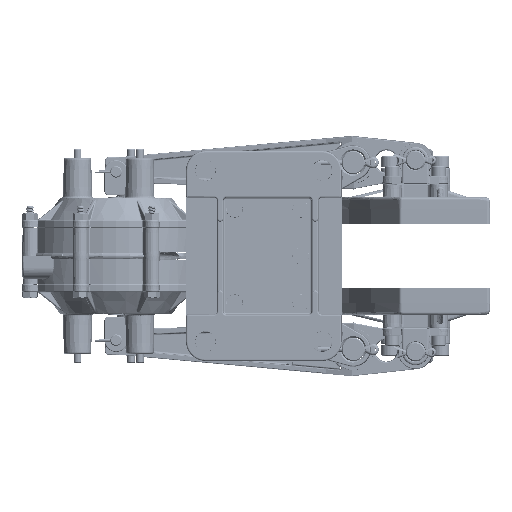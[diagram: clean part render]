
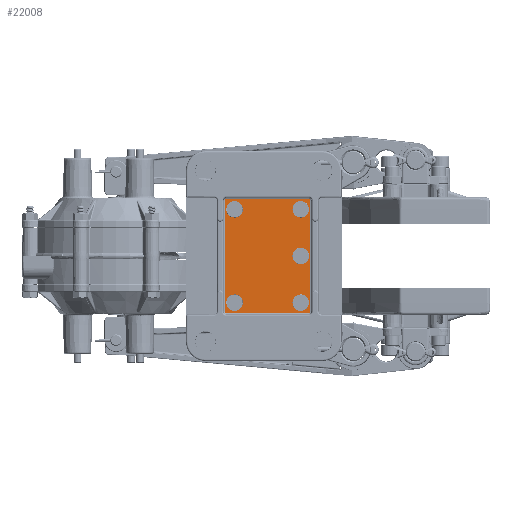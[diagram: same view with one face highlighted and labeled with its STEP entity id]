
A CAD part, front view. The second image highlights one B-rep face of the part: STEP entity #22008.
In plain terms, the highlighted planar face has unit normal (0, -1, 0).
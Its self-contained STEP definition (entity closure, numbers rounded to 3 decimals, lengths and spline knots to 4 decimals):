
#1706 = CIRCLE ( 'NONE', #218860, 0.0509 ) ;
#3610 = CARTESIAN_POINT ( 'NONE',  ( -1.2711, -7.754, 1.5 ) ) ;
#3825 = EDGE_CURVE ( 'NONE', #57411, #57411, #92169, .T. ) ;
#6438 = VECTOR ( 'NONE', #66553, 39.3701 ) ;
#8799 = CARTESIAN_POINT ( 'NONE',  ( -3.3925, -7.754, 1.775 ) ) ;
#11671 = VERTEX_POINT ( 'NONE', #193132 ) ;
#12445 = CARTESIAN_POINT ( 'NONE',  ( -3.3961, -7.754, -1.5 ) ) ;
#13329 = DIRECTION ( 'NONE',  ( 0., -1., 0. ) ) ;
#21909 = AXIS2_PLACEMENT_3D ( 'NONE', #149166, #13329, #171962 ) ;
#22008 = ADVANCED_FACE ( 'NONE', ( #58662, #239548, #119010, #179206, #292636, #232453 ), #183767, .F. ) ;
#25703 = EDGE_CURVE ( 'NONE', #54062, #45253, #146386, .T. ) ;
#26130 = DIRECTION ( 'NONE',  ( -1., 0., 0. ) ) ;
#31579 = DIRECTION ( 'NONE',  ( -1., 0., 0. ) ) ;
#38419 = VERTEX_POINT ( 'NONE', #3610 ) ;
#45244 = ORIENTED_EDGE ( 'NONE', *, *, #3825, .T. ) ;
#45253 = VERTEX_POINT ( 'NONE', #91319 ) ;
#49256 = AXIS2_PLACEMENT_3D ( 'NONE', #190291, #54552, #213058 ) ;
#49587 = CARTESIAN_POINT ( 'NONE',  ( -0.7016, -7.754, 1.775 ) ) ;
#53083 = VECTOR ( 'NONE', #143412, 39.3701 ) ;
#53428 = VERTEX_POINT ( 'NONE', #95678 ) ;
#54062 = VERTEX_POINT ( 'NONE', #80281 ) ;
#54552 = DIRECTION ( 'NONE',  ( 0., 1., 0. ) ) ;
#54809 = CIRCLE ( 'NONE', #278682, 0.2656 ) ;
#57411 = VERTEX_POINT ( 'NONE', #117097 ) ;
#58662 = FACE_BOUND ( 'NONE', #247994, .T. ) ;
#60136 = LINE ( 'NONE', #76022, #53083 ) ;
#65316 = DIRECTION ( 'NONE',  ( 0., 1., 0. ) ) ;
#65794 = ORIENTED_EDGE ( 'NONE', *, *, #284200, .T. ) ;
#66086 = ORIENTED_EDGE ( 'NONE', *, *, #161708, .T. ) ;
#66553 = DIRECTION ( 'NONE',  ( 0., 0., -1. ) ) ;
#70040 = AXIS2_PLACEMENT_3D ( 'NONE', #8799, #167336, #31579 ) ;
#71170 = EDGE_CURVE ( 'NONE', #79332, #79332, #54809, .T. ) ;
#72397 = DIRECTION ( 'NONE',  ( 0., 0., 1. ) ) ;
#76022 = CARTESIAN_POINT ( 'NONE',  ( -3.3925, -7.754, 1.8259 ) ) ;
#78541 = CIRCLE ( 'NONE', #70040, 0.0509 ) ;
#79332 = VERTEX_POINT ( 'NONE', #292135 ) ;
#80281 = CARTESIAN_POINT ( 'NONE',  ( -0.7016, -7.754, 1.775 ) ) ;
#90142 = EDGE_LOOP ( 'NONE', ( #65794, #291968, #213707, #249371, #241692, #66086, #293717, #220119 ) ) ;
#91319 = CARTESIAN_POINT ( 'NONE',  ( -0.7525, -7.754, 1.8259 ) ) ;
#91785 = EDGE_CURVE ( 'NONE', #287069, #54062, #244555, .T. ) ;
#92169 = CIRCLE ( 'NONE', #102050, 0.2656 ) ;
#95360 = VERTEX_POINT ( 'NONE', #136550 ) ;
#95678 = CARTESIAN_POINT ( 'NONE',  ( -3.4434, -7.754, -1.775 ) ) ;
#96128 = CARTESIAN_POINT ( 'NONE',  ( -3.1305, -7.754, 1.5 ) ) ;
#97141 = EDGE_LOOP ( 'NONE', ( #143979 ) ) ;
#97377 = CARTESIAN_POINT ( 'NONE',  ( -3.3925, -7.754, -1.775 ) ) ;
#100470 = VERTEX_POINT ( 'NONE', #12445 ) ;
#102050 = AXIS2_PLACEMENT_3D ( 'NONE', #201063, #65316, #223903 ) ;
#110016 = DIRECTION ( 'NONE',  ( 0., -1., 0. ) ) ;
#110708 = DIRECTION ( 'NONE',  ( 0., 1., 0. ) ) ;
#117097 = CARTESIAN_POINT ( 'NONE',  ( -1.2711, -7.754, 0. ) ) ;
#118502 = DIRECTION ( 'NONE',  ( 0., 1., 0. ) ) ;
#118939 = DIRECTION ( 'NONE',  ( -1., 0., 0. ) ) ;
#119010 = FACE_BOUND ( 'NONE', #249917, .T. ) ;
#120137 = DIRECTION ( 'NONE',  ( -1., 0., 0. ) ) ;
#124736 = EDGE_CURVE ( 'NONE', #53428, #146165, #1706, .T. ) ;
#131042 = EDGE_LOOP ( 'NONE', ( #287037 ) ) ;
#131848 = EDGE_CURVE ( 'NONE', #100470, #100470, #226026, .T. ) ;
#136550 = CARTESIAN_POINT ( 'NONE',  ( -3.3961, -7.754, 1.5 ) ) ;
#141047 = VECTOR ( 'NONE', #255494, 39.3701 ) ;
#143412 = DIRECTION ( 'NONE',  ( -1., 0., 0. ) ) ;
#143979 = ORIENTED_EDGE ( 'NONE', *, *, #131848, .T. ) ;
#145071 = EDGE_CURVE ( 'NONE', #146165, #202567, #261628, .T. ) ;
#146165 = VERTEX_POINT ( 'NONE', #239585 ) ;
#146386 = CIRCLE ( 'NONE', #21909, 0.0509 ) ;
#147797 = ORIENTED_EDGE ( 'NONE', *, *, #71170, .T. ) ;
#149166 = CARTESIAN_POINT ( 'NONE',  ( -0.7525, -7.754, 1.775 ) ) ;
#150695 = AXIS2_PLACEMENT_3D ( 'NONE', #245724, #110016, #268573 ) ;
#153695 = CIRCLE ( 'NONE', #282097, 0.2656 ) ;
#161708 = EDGE_CURVE ( 'NONE', #202567, #287069, #244820, .T. ) ;
#161935 = DIRECTION ( 'NONE',  ( 0., 1., 0. ) ) ;
#167336 = DIRECTION ( 'NONE',  ( 0., -1., 0. ) ) ;
#167365 = ORIENTED_EDGE ( 'NONE', *, *, #290937, .T. ) ;
#171962 = DIRECTION ( 'NONE',  ( -1., 0., 0. ) ) ;
#178001 = CARTESIAN_POINT ( 'NONE',  ( -0.7016, -7.754, -1.775 ) ) ;
#179206 = FACE_BOUND ( 'NONE', #131042, .T. ) ;
#183767 = PLANE ( 'NONE',  #184863 ) ;
#184285 = VECTOR ( 'NONE', #72397, 39.3701 ) ;
#184863 = AXIS2_PLACEMENT_3D ( 'NONE', #273990, #161935, #26130 ) ;
#190291 = CARTESIAN_POINT ( 'NONE',  ( -3.1305, -7.754, -1.5 ) ) ;
#193132 = CARTESIAN_POINT ( 'NONE',  ( -3.3925, -7.754, 1.8259 ) ) ;
#199275 = EDGE_CURVE ( 'NONE', #11671, #220225, #78541, .T. ) ;
#201063 = CARTESIAN_POINT ( 'NONE',  ( -1.0055, -7.754, 0. ) ) ;
#202281 = CARTESIAN_POINT ( 'NONE',  ( -3.4434, -7.754, -1.775 ) ) ;
#202567 = VERTEX_POINT ( 'NONE', #254043 ) ;
#203968 = CIRCLE ( 'NONE', #238225, 0.2656 ) ;
#213058 = DIRECTION ( 'NONE',  ( -1., 0., 0. ) ) ;
#213707 = ORIENTED_EDGE ( 'NONE', *, *, #269407, .T. ) ;
#218860 = AXIS2_PLACEMENT_3D ( 'NONE', #97377, #255882, #120137 ) ;
#220119 = ORIENTED_EDGE ( 'NONE', *, *, #25703, .T. ) ;
#220225 = VERTEX_POINT ( 'NONE', #227025 ) ;
#223903 = DIRECTION ( 'NONE',  ( -1., 0., 0. ) ) ;
#226026 = CIRCLE ( 'NONE', #49256, 0.2656 ) ;
#227025 = CARTESIAN_POINT ( 'NONE',  ( -3.4434, -7.754, 1.775 ) ) ;
#232453 = FACE_OUTER_BOUND ( 'NONE', #90142, .T. ) ;
#233691 = CARTESIAN_POINT ( 'NONE',  ( -0.7525, -7.754, -1.8259 ) ) ;
#238225 = AXIS2_PLACEMENT_3D ( 'NONE', #96128, #254675, #118939 ) ;
#239548 = FACE_BOUND ( 'NONE', #270440, .T. ) ;
#239585 = CARTESIAN_POINT ( 'NONE',  ( -3.3925, -7.754, -1.8259 ) ) ;
#241692 = ORIENTED_EDGE ( 'NONE', *, *, #145071, .T. ) ;
#244555 = LINE ( 'NONE', #49587, #184285 ) ;
#244820 = CIRCLE ( 'NONE', #150695, 0.0509 ) ;
#245724 = CARTESIAN_POINT ( 'NONE',  ( -0.7525, -7.754, -1.775 ) ) ;
#246424 = CARTESIAN_POINT ( 'NONE',  ( -1.0055, -7.754, 1.5 ) ) ;
#247994 = EDGE_LOOP ( 'NONE', ( #147797 ) ) ;
#249371 = ORIENTED_EDGE ( 'NONE', *, *, #124736, .T. ) ;
#249917 = EDGE_LOOP ( 'NONE', ( #167365 ) ) ;
#254043 = CARTESIAN_POINT ( 'NONE',  ( -0.7525, -7.754, -1.8259 ) ) ;
#254240 = CARTESIAN_POINT ( 'NONE',  ( -1.0055, -7.754, -1.5 ) ) ;
#254675 = DIRECTION ( 'NONE',  ( 0., 1., 0. ) ) ;
#255494 = DIRECTION ( 'NONE',  ( 1., 0., 0. ) ) ;
#255882 = DIRECTION ( 'NONE',  ( 0., -1., 0. ) ) ;
#261628 = LINE ( 'NONE', #233691, #141047 ) ;
#268573 = DIRECTION ( 'NONE',  ( -1., 0., 0. ) ) ;
#269252 = DIRECTION ( 'NONE',  ( -1., 0., 0. ) ) ;
#269407 = EDGE_CURVE ( 'NONE', #220225, #53428, #293630, .T. ) ;
#270440 = EDGE_LOOP ( 'NONE', ( #45244 ) ) ;
#273990 = CARTESIAN_POINT ( 'NONE',  ( -2.1925, -7.754, 0. ) ) ;
#276985 = DIRECTION ( 'NONE',  ( -1., 0., 0. ) ) ;
#278682 = AXIS2_PLACEMENT_3D ( 'NONE', #254240, #118502, #276985 ) ;
#279089 = EDGE_CURVE ( 'NONE', #95360, #95360, #203968, .T. ) ;
#282097 = AXIS2_PLACEMENT_3D ( 'NONE', #246424, #110708, #269252 ) ;
#284200 = EDGE_CURVE ( 'NONE', #45253, #11671, #60136, .T. ) ;
#287037 = ORIENTED_EDGE ( 'NONE', *, *, #279089, .T. ) ;
#287069 = VERTEX_POINT ( 'NONE', #178001 ) ;
#290937 = EDGE_CURVE ( 'NONE', #38419, #38419, #153695, .T. ) ;
#291968 = ORIENTED_EDGE ( 'NONE', *, *, #199275, .T. ) ;
#292135 = CARTESIAN_POINT ( 'NONE',  ( -1.2711, -7.754, -1.5 ) ) ;
#292636 = FACE_BOUND ( 'NONE', #97141, .T. ) ;
#293630 = LINE ( 'NONE', #202281, #6438 ) ;
#293717 = ORIENTED_EDGE ( 'NONE', *, *, #91785, .T. ) ;
